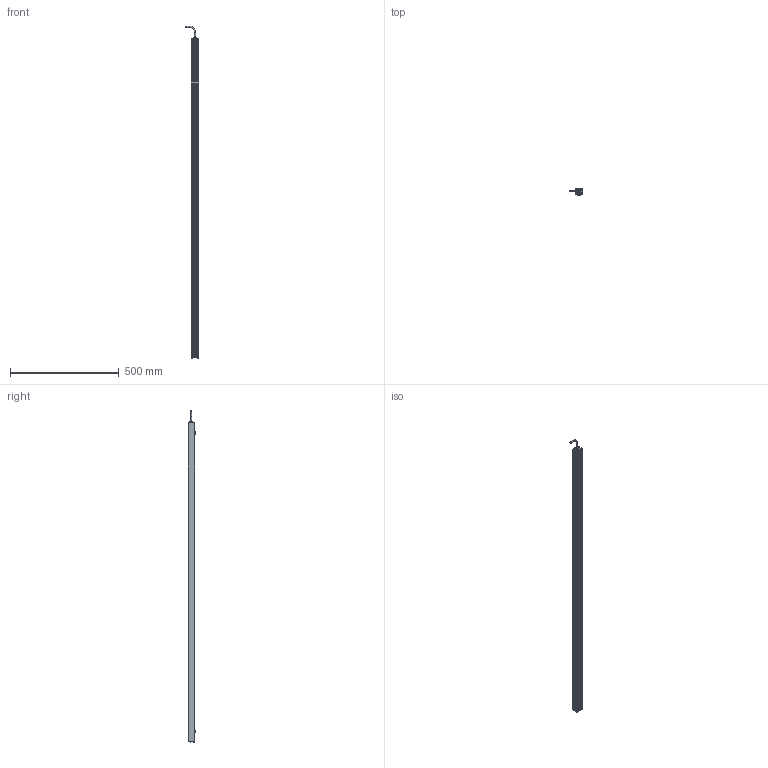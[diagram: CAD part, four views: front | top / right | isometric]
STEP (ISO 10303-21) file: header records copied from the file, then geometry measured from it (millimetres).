
FILE_DESCRIPTION (( 'STEP AP214' ), '1' );
FILE_NAME ('AL150XXXX_AL150336.stp', '2021-04-29T15:41:45', ( '' ), ( '' ), 'SwSTEP 2.0', 'SolidWorks 2018', '' );
FILE_SCHEMA (( 'AUTOMOTIVE_DESIGN' ));
Length unit declared in the file: inch
Products named in the file (12): Part1^AL150XXXX; AL150XXXX_AL150336; 1157 (no strap); Part2^AL150XXXX; 092408_TRUNCATED; HN-M6_90592A016; 093145_93701A253; 116-02-006; 116-02-007; 150-01-005-XXX_150-01-005-336; 150-03-006-XXXX_150-03-006-336; CHM6x8_91460A312
Assembly tree (18 placements, depth 2):
  Part1^AL150XXXX
  AL150XXXX_AL150336
    150-01-005-XXX_150-01-005-336
    116-02-006
    093145_93701A253  x8
    HN-M6_90592A016  x2
    CHM6x8_91460A312  x2
    150-03-006-XXXX_150-03-006-336
    116-02-007
    1157 (no strap)
    092408_TRUNCATED
  Part2^AL150XXXX
Bounding box: 60.68 x 33.84 x 1526.72 mm (x, y, z)
Volume: 455914.8 mm3; surface area: 482060.2 mm2
Topology: 26 solids, 26 shells, 1306 faces, 3436 edges, 2127 vertices
Faces by surface type: cylinder 805, cone 249, plane 153, torus 59, bspline 32, sphere 8
Entity records: 18285 total; most frequent: CARTESIAN_POINT 6069, ORIENTED_EDGE 2496, DIRECTION 2311, EDGE_CURVE 1248, AXIS2_PLACEMENT_3D 881, VERTEX_POINT 800, VECTOR 549, LINE 549
